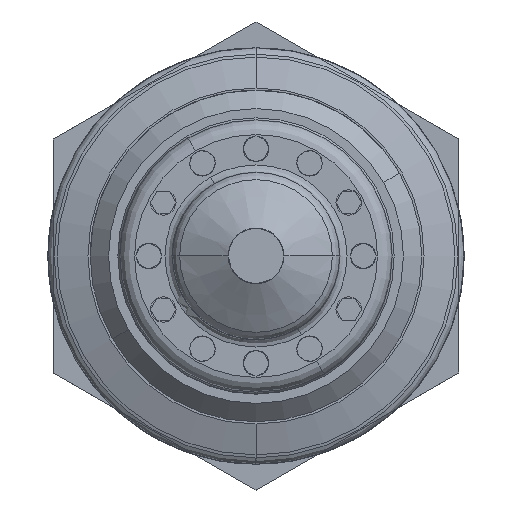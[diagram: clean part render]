
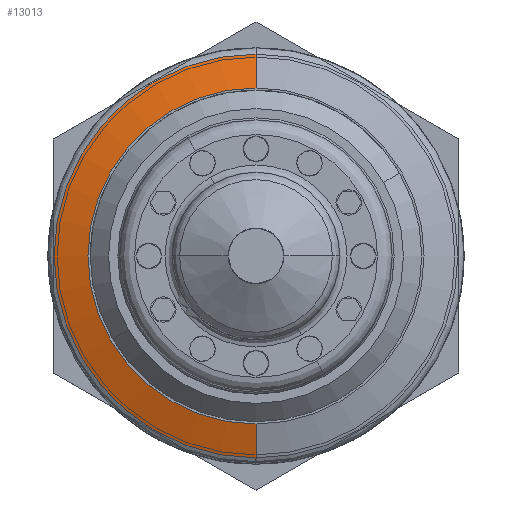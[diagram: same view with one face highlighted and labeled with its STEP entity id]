
A CAD part, left-side view. The second image highlights one B-rep face of the part: STEP entity #13013.
In plain terms, the highlighted conical face has half-angle 71.609 degrees and reference radius 9.121 mm.
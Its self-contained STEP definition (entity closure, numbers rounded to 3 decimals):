
#12917=AXIS2_PLACEMENT_3D('Circle Axis2P3D',#12915,#12916,$) ;
#12924=AXIS2_PLACEMENT_3D('Circle Axis2P3D',#12922,#12923,$) ;
#12977=AXIS2_PLACEMENT_3D('Cone Axis2P3D',#12974,#12975,#12976) ;
#12988=AXIS2_PLACEMENT_3D('Circle Axis2P3D',#12986,#12987,$) ;
#12995=AXIS2_PLACEMENT_3D('Circle Axis2P3D',#12993,#12994,$) ;
#12905=CARTESIAN_POINT('Vertex',(26.411,0.,10.958)) ;
#12912=CARTESIAN_POINT('Vertex',(26.411,0.,-10.958)) ;
#12915=CARTESIAN_POINT('Axis2P3D Location',(26.411,0.,0.)) ;
#12919=CARTESIAN_POINT('Vertex',(26.411,10.958,0.)) ;
#12922=CARTESIAN_POINT('Axis2P3D Location',(26.411,0.,0.)) ;
#12974=CARTESIAN_POINT('Axis2P3D Location',(25.8,0.,0.)) ;
#12979=CARTESIAN_POINT('Line Origine',(157776.174,0.,-474466.721)) ;
#12983=CARTESIAN_POINT('Vertex',(25.8,0.,-9.121)) ;
#12986=CARTESIAN_POINT('Axis2P3D Location',(25.8,0.,0.)) ;
#12990=CARTESIAN_POINT('Vertex',(25.8,9.121,0.)) ;
#12993=CARTESIAN_POINT('Axis2P3D Location',(25.8,0.,0.)) ;
#12997=CARTESIAN_POINT('Vertex',(25.8,0.,9.121)) ;
#13000=CARTESIAN_POINT('Line Origine',(157776.174,0.,474466.721)) ;
#12916=DIRECTION('Axis2P3D Direction',(-1.,0.,0.)) ;
#12923=DIRECTION('Axis2P3D Direction',(-1.,0.,0.)) ;
#12975=DIRECTION('Axis2P3D Direction',(1.,0.,0.)) ;
#12976=DIRECTION('Axis2P3D XDirection',(0.,0.,-1.)) ;
#12980=DIRECTION('Vector Direction',(0.316,0.,-0.949)) ;
#12987=DIRECTION('Axis2P3D Direction',(1.,0.,0.)) ;
#12994=DIRECTION('Axis2P3D Direction',(1.,0.,0.)) ;
#13001=DIRECTION('Vector Direction',(0.316,0.,0.949)) ;
#12981=VECTOR('Line Direction',#12980,1.) ;
#13002=VECTOR('Line Direction',#13001,1.) ;
#13006=ORIENTED_EDGE('',*,*,#12985,.F.) ;
#13007=ORIENTED_EDGE('',*,*,#12992,.F.) ;
#13008=ORIENTED_EDGE('',*,*,#12999,.F.) ;
#13009=ORIENTED_EDGE('',*,*,#13004,.F.) ;
#13010=ORIENTED_EDGE('',*,*,#12926,.T.) ;
#13011=ORIENTED_EDGE('',*,*,#12921,.T.) ;
#13013=ADVANCED_FACE('PartBody',(#13012),#12978,.T.) ;
#12918=CIRCLE('generated circle',#12917,10.958) ;
#12925=CIRCLE('generated circle',#12924,10.958) ;
#12989=CIRCLE('generated circle',#12988,9.121) ;
#12996=CIRCLE('generated circle',#12995,9.121) ;
#12978=CONICAL_SURFACE('Cone',#12977,9.121,1.25) ;
#12921=EDGE_CURVE('',#12920,#12913,#12918,.T.) ;
#12926=EDGE_CURVE('',#12906,#12920,#12925,.T.) ;
#12985=EDGE_CURVE('',#12984,#12913,#12982,.T.) ;
#12992=EDGE_CURVE('',#12991,#12984,#12989,.F.) ;
#12999=EDGE_CURVE('',#12998,#12991,#12996,.F.) ;
#13004=EDGE_CURVE('',#12906,#12998,#13003,.F.) ;
#13005=EDGE_LOOP('',(#13006,#13007,#13008,#13009,#13010,#13011)) ;
#13012=FACE_OUTER_BOUND('',#13005,.T.) ;
#12982=LINE('Line',#12979,#12981) ;
#13003=LINE('Line',#13000,#13002) ;
#12906=VERTEX_POINT('',#12905) ;
#12913=VERTEX_POINT('',#12912) ;
#12920=VERTEX_POINT('',#12919) ;
#12984=VERTEX_POINT('',#12983) ;
#12991=VERTEX_POINT('',#12990) ;
#12998=VERTEX_POINT('',#12997) ;
